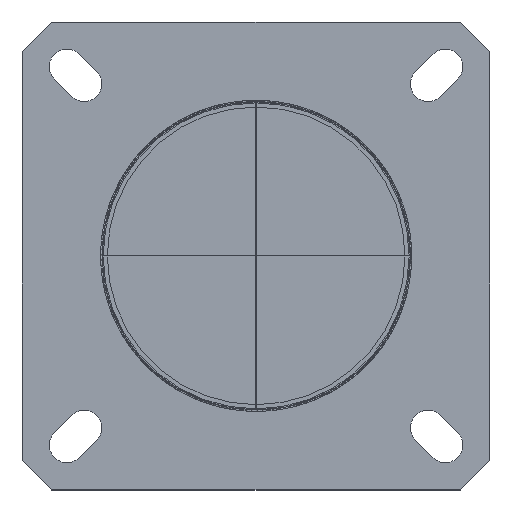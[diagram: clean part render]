
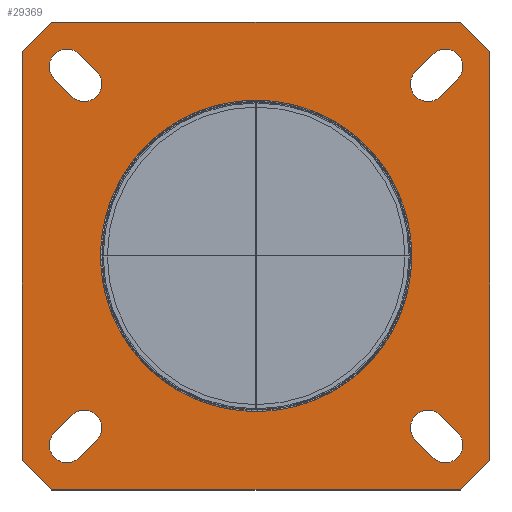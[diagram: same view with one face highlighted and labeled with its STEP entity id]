
A CAD part, top view. The second image highlights one B-rep face of the part: STEP entity #29369.
In plain terms, the highlighted planar face has unit normal (0, 0, 1).
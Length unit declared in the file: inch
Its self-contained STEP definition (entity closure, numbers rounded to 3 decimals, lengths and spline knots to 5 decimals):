
#9814=CARTESIAN_POINT('',(0.,0.,0.));
#9815=DIRECTION('',(0.,0.,1.));
#9816=DIRECTION('',(1.,0.,0.));
#9817=AXIS2_PLACEMENT_3D('',#9814,#9815,#9816);
#12888=DIRECTION('',(0.707,0.707,0.));
#12889=VECTOR('',#12888,0.154);
#12890=CARTESIAN_POINT('',(-0.851,0.74111,0.));
#12891=LINE('',#12890,#12889);
#12892=DIRECTION('',(1.,0.,0.));
#12893=VECTOR('',#12892,1.48321);
#12894=CARTESIAN_POINT('',(-0.74211,0.85,0.));
#12895=LINE('',#12894,#12893);
#12896=DIRECTION('',(0.707,-0.707,0.));
#12897=VECTOR('',#12896,0.154);
#12898=CARTESIAN_POINT('',(0.74111,0.85,0.));
#12899=LINE('',#12898,#12897);
#12900=DIRECTION('',(0.,-1.,0.));
#12901=VECTOR('',#12900,1.48321);
#12902=CARTESIAN_POINT('',(0.85,0.74111,0.));
#12903=LINE('',#12902,#12901);
#12904=DIRECTION('',(-0.707,-0.707,0.));
#12905=VECTOR('',#12904,0.154);
#12906=CARTESIAN_POINT('',(0.85,-0.74211,0.));
#12907=LINE('',#12906,#12905);
#12908=DIRECTION('',(-1.,0.,0.));
#12909=VECTOR('',#12908,1.48321);
#12910=CARTESIAN_POINT('',(0.74111,-0.851,0.));
#12911=LINE('',#12910,#12909);
#12912=DIRECTION('',(-0.707,0.707,0.));
#12913=VECTOR('',#12912,0.154);
#12914=CARTESIAN_POINT('',(-0.74211,-0.851,0.));
#12915=LINE('',#12914,#12913);
#12916=DIRECTION('',(0.,1.,0.));
#12917=VECTOR('',#12916,1.48321);
#12918=CARTESIAN_POINT('',(-0.851,-0.74211,0.));
#12919=LINE('',#12918,#12917);
#12920=DIRECTION('',(-0.707,-0.707,0.));
#12921=VECTOR('',#12920,0.08839);
#12922=CARTESIAN_POINT('',(-0.67025,-0.57975,0.));
#12923=LINE('',#12922,#12921);
#12924=CARTESIAN_POINT('',(-0.6875,-0.6875,0.));
#12925=DIRECTION('',(0.,0.,1.));
#12926=DIRECTION('',(-0.707,0.707,0.));
#12927=AXIS2_PLACEMENT_3D('',#12924,#12925,#12926);
#12929=DIRECTION('',(0.707,0.707,0.));
#12930=VECTOR('',#12929,0.08839);
#12931=CARTESIAN_POINT('',(-0.64225,-0.73275,0.));
#12932=LINE('',#12931,#12930);
#12933=CARTESIAN_POINT('',(-0.625,-0.625,0.));
#12934=DIRECTION('',(0.,0.,1.));
#12935=DIRECTION('',(0.707,-0.707,0.));
#12936=AXIS2_PLACEMENT_3D('',#12933,#12934,#12935);
#12938=DIRECTION('',(0.707,-0.707,0.));
#12939=VECTOR('',#12938,0.08839);
#12940=CARTESIAN_POINT('',(-0.73275,0.64225,0.));
#12941=LINE('',#12940,#12939);
#12942=CARTESIAN_POINT('',(-0.625,0.625,0.));
#12943=DIRECTION('',(0.,0.,1.));
#12944=DIRECTION('',(-0.707,-0.707,0.));
#12945=AXIS2_PLACEMENT_3D('',#12942,#12943,#12944);
#12947=DIRECTION('',(-0.707,0.707,0.));
#12948=VECTOR('',#12947,0.08839);
#12949=CARTESIAN_POINT('',(-0.57975,0.67025,0.));
#12950=LINE('',#12949,#12948);
#12951=CARTESIAN_POINT('',(-0.6875,0.6875,0.));
#12952=DIRECTION('',(0.,0.,1.));
#12953=DIRECTION('',(0.707,0.707,0.));
#12954=AXIS2_PLACEMENT_3D('',#12951,#12952,#12953);
#12956=DIRECTION('',(-0.707,-0.707,0.));
#12957=VECTOR('',#12956,0.08839);
#12958=CARTESIAN_POINT('',(0.64225,0.73275,0.));
#12959=LINE('',#12958,#12957);
#12960=CARTESIAN_POINT('',(0.625,0.625,0.));
#12961=DIRECTION('',(0.,0.,1.));
#12962=DIRECTION('',(-0.707,0.707,0.));
#12963=AXIS2_PLACEMENT_3D('',#12960,#12961,#12962);
#12965=DIRECTION('',(0.707,0.707,0.));
#12966=VECTOR('',#12965,0.08839);
#12967=CARTESIAN_POINT('',(0.67025,0.57975,0.));
#12968=LINE('',#12967,#12966);
#12969=CARTESIAN_POINT('',(0.6875,0.6875,0.));
#12970=DIRECTION('',(0.,0.,1.));
#12971=DIRECTION('',(0.707,-0.707,0.));
#12972=AXIS2_PLACEMENT_3D('',#12969,#12970,#12971);
#12974=CARTESIAN_POINT('',(0.625,-0.625,0.));
#12975=DIRECTION('',(0.,0.,1.));
#12976=DIRECTION('',(0.707,0.707,0.));
#12977=AXIS2_PLACEMENT_3D('',#12974,#12975,#12976);
#12979=DIRECTION('',(0.707,-0.707,0.));
#12980=VECTOR('',#12979,0.08839);
#12981=CARTESIAN_POINT('',(0.57975,-0.67025,0.));
#12982=LINE('',#12981,#12980);
#12983=CARTESIAN_POINT('',(0.6875,-0.6875,0.));
#12984=DIRECTION('',(0.,0.,1.));
#12985=DIRECTION('',(-0.707,-0.707,0.));
#12986=AXIS2_PLACEMENT_3D('',#12983,#12984,#12985);
#12988=DIRECTION('',(-0.707,0.707,0.));
#12989=VECTOR('',#12988,0.08839);
#12990=CARTESIAN_POINT('',(0.73275,-0.64225,0.));
#12991=LINE('',#12990,#12989);
#13192=CARTESIAN_POINT('',(0.,0.,0.));
#13193=DIRECTION('',(0.,0.,1.));
#13194=DIRECTION('',(-1.,0.,0.));
#13195=AXIS2_PLACEMENT_3D('',#13192,#13193,#13194);
#22529=CARTESIAN_POINT('',(-0.851,0.74111,0.));
#22530=CARTESIAN_POINT('',(-0.74211,0.85,0.));
#22531=VERTEX_POINT('',#22529);
#22532=VERTEX_POINT('',#22530);
#22533=CARTESIAN_POINT('',(0.74111,0.85,0.));
#22534=VERTEX_POINT('',#22533);
#22535=CARTESIAN_POINT('',(0.85,0.74111,0.));
#22536=VERTEX_POINT('',#22535);
#22537=CARTESIAN_POINT('',(0.85,-0.74211,0.));
#22538=VERTEX_POINT('',#22537);
#22539=CARTESIAN_POINT('',(0.74111,-0.851,0.));
#22540=VERTEX_POINT('',#22539);
#22541=CARTESIAN_POINT('',(-0.74211,-0.851,0.));
#22542=VERTEX_POINT('',#22541);
#22543=CARTESIAN_POINT('',(-0.851,-0.74211,0.));
#22544=VERTEX_POINT('',#22543);
#22545=CARTESIAN_POINT('',(-0.67025,-0.57975,0.));
#22546=CARTESIAN_POINT('',(-0.73275,-0.64225,0.));
#22547=VERTEX_POINT('',#22545);
#22548=VERTEX_POINT('',#22546);
#22549=CARTESIAN_POINT('',(-0.64225,-0.73275,0.));
#22550=VERTEX_POINT('',#22549);
#22551=CARTESIAN_POINT('',(-0.57975,-0.67025,0.));
#22552=VERTEX_POINT('',#22551);
#22553=CARTESIAN_POINT('',(-0.73275,0.64225,0.));
#22554=CARTESIAN_POINT('',(-0.67025,0.57975,0.));
#22555=VERTEX_POINT('',#22553);
#22556=VERTEX_POINT('',#22554);
#22557=CARTESIAN_POINT('',(-0.57975,0.67025,0.));
#22558=VERTEX_POINT('',#22557);
#22559=CARTESIAN_POINT('',(-0.64225,0.73275,0.));
#22560=VERTEX_POINT('',#22559);
#22561=CARTESIAN_POINT('',(0.64225,0.73275,0.));
#22562=CARTESIAN_POINT('',(0.57975,0.67025,0.));
#22563=VERTEX_POINT('',#22561);
#22564=VERTEX_POINT('',#22562);
#22565=CARTESIAN_POINT('',(0.67025,0.57975,0.));
#22566=VERTEX_POINT('',#22565);
#22567=CARTESIAN_POINT('',(0.73275,0.64225,0.));
#22568=VERTEX_POINT('',#22567);
#22569=CARTESIAN_POINT('',(0.67025,-0.57975,0.));
#22570=CARTESIAN_POINT('',(0.57975,-0.67025,0.));
#22571=VERTEX_POINT('',#22569);
#22572=VERTEX_POINT('',#22570);
#22573=CARTESIAN_POINT('',(0.64225,-0.73275,0.));
#22574=VERTEX_POINT('',#22573);
#22575=CARTESIAN_POINT('',(0.73275,-0.64225,0.));
#22576=VERTEX_POINT('',#22575);
#22625=CARTESIAN_POINT('',(0.565,0.,0.));
#22626=CARTESIAN_POINT('',(-0.565,0.,0.));
#22627=VERTEX_POINT('',#22625);
#22628=VERTEX_POINT('',#22626);
#29301=CARTESIAN_POINT('',(0.,0.,0.));
#29302=DIRECTION('',(0.,0.,-1.));
#29303=DIRECTION('',(0.,-1.,0.));
#29304=AXIS2_PLACEMENT_3D('',#29301,#29302,#29303);
#29305=PLANE('',#29304);
#29307=ORIENTED_EDGE('',*,*,#29306,.T.);
#29309=ORIENTED_EDGE('',*,*,#29308,.T.);
#29311=ORIENTED_EDGE('',*,*,#29310,.T.);
#29313=ORIENTED_EDGE('',*,*,#29312,.T.);
#29315=ORIENTED_EDGE('',*,*,#29314,.T.);
#29317=ORIENTED_EDGE('',*,*,#29316,.T.);
#29319=ORIENTED_EDGE('',*,*,#29318,.T.);
#29321=ORIENTED_EDGE('',*,*,#29320,.T.);
#29322=EDGE_LOOP('',(#29307,#29309,#29311,#29313,#29315,#29317,#29319,#29321));
#29323=FACE_OUTER_BOUND('',#29322,.F.);
#29325=ORIENTED_EDGE('',*,*,#29324,.T.);
#29327=ORIENTED_EDGE('',*,*,#29326,.T.);
#29329=ORIENTED_EDGE('',*,*,#29328,.T.);
#29331=ORIENTED_EDGE('',*,*,#29330,.T.);
#29332=EDGE_LOOP('',(#29325,#29327,#29329,#29331));
#29333=FACE_BOUND('',#29332,.F.);
#29335=ORIENTED_EDGE('',*,*,#29334,.T.);
#29337=ORIENTED_EDGE('',*,*,#29336,.T.);
#29339=ORIENTED_EDGE('',*,*,#29338,.T.);
#29341=ORIENTED_EDGE('',*,*,#29340,.T.);
#29342=EDGE_LOOP('',(#29335,#29337,#29339,#29341));
#29343=FACE_BOUND('',#29342,.F.);
#29345=ORIENTED_EDGE('',*,*,#29344,.T.);
#29347=ORIENTED_EDGE('',*,*,#29346,.T.);
#29349=ORIENTED_EDGE('',*,*,#29348,.T.);
#29351=ORIENTED_EDGE('',*,*,#29350,.T.);
#29352=EDGE_LOOP('',(#29345,#29347,#29349,#29351));
#29353=FACE_BOUND('',#29352,.F.);
#29355=ORIENTED_EDGE('',*,*,#29354,.T.);
#29357=ORIENTED_EDGE('',*,*,#29356,.T.);
#29359=ORIENTED_EDGE('',*,*,#29358,.T.);
#29361=ORIENTED_EDGE('',*,*,#29360,.T.);
#29362=EDGE_LOOP('',(#29355,#29357,#29359,#29361));
#29363=FACE_BOUND('',#29362,.F.);
#29364=ORIENTED_EDGE('',*,*,#28304,.T.);
#29366=ORIENTED_EDGE('',*,*,#29365,.T.);
#29367=EDGE_LOOP('',(#29364,#29366));
#29368=FACE_BOUND('',#29367,.F.);
#29369=ADVANCED_FACE('',(#29323,#29333,#29343,#29353,#29363,#29368),#29305,.F.);
#9818=CIRCLE('',#9817,0.565);
#12928=CIRCLE('',#12927,0.064);
#12937=CIRCLE('',#12936,0.064);
#12946=CIRCLE('',#12945,0.064);
#12955=CIRCLE('',#12954,0.064);
#12964=CIRCLE('',#12963,0.064);
#12973=CIRCLE('',#12972,0.064);
#12978=CIRCLE('',#12977,0.064);
#12987=CIRCLE('',#12986,0.064);
#13196=CIRCLE('',#13195,0.565);
#28304=EDGE_CURVE('',#22627,#22628,#9818,.T.);
#29306=EDGE_CURVE('',#22531,#22532,#12891,.T.);
#29308=EDGE_CURVE('',#22532,#22534,#12895,.T.);
#29310=EDGE_CURVE('',#22534,#22536,#12899,.T.);
#29312=EDGE_CURVE('',#22536,#22538,#12903,.T.);
#29314=EDGE_CURVE('',#22538,#22540,#12907,.T.);
#29316=EDGE_CURVE('',#22540,#22542,#12911,.T.);
#29318=EDGE_CURVE('',#22542,#22544,#12915,.T.);
#29320=EDGE_CURVE('',#22544,#22531,#12919,.T.);
#29324=EDGE_CURVE('',#22547,#22548,#12923,.T.);
#29326=EDGE_CURVE('',#22548,#22550,#12928,.T.);
#29328=EDGE_CURVE('',#22550,#22552,#12932,.T.);
#29330=EDGE_CURVE('',#22552,#22547,#12937,.T.);
#29334=EDGE_CURVE('',#22555,#22556,#12941,.T.);
#29336=EDGE_CURVE('',#22556,#22558,#12946,.T.);
#29338=EDGE_CURVE('',#22558,#22560,#12950,.T.);
#29340=EDGE_CURVE('',#22560,#22555,#12955,.T.);
#29344=EDGE_CURVE('',#22563,#22564,#12959,.T.);
#29346=EDGE_CURVE('',#22564,#22566,#12964,.T.);
#29348=EDGE_CURVE('',#22566,#22568,#12968,.T.);
#29350=EDGE_CURVE('',#22568,#22563,#12973,.T.);
#29354=EDGE_CURVE('',#22571,#22572,#12978,.T.);
#29356=EDGE_CURVE('',#22572,#22574,#12982,.T.);
#29358=EDGE_CURVE('',#22574,#22576,#12987,.T.);
#29360=EDGE_CURVE('',#22576,#22571,#12991,.T.);
#29365=EDGE_CURVE('',#22628,#22627,#13196,.T.);
